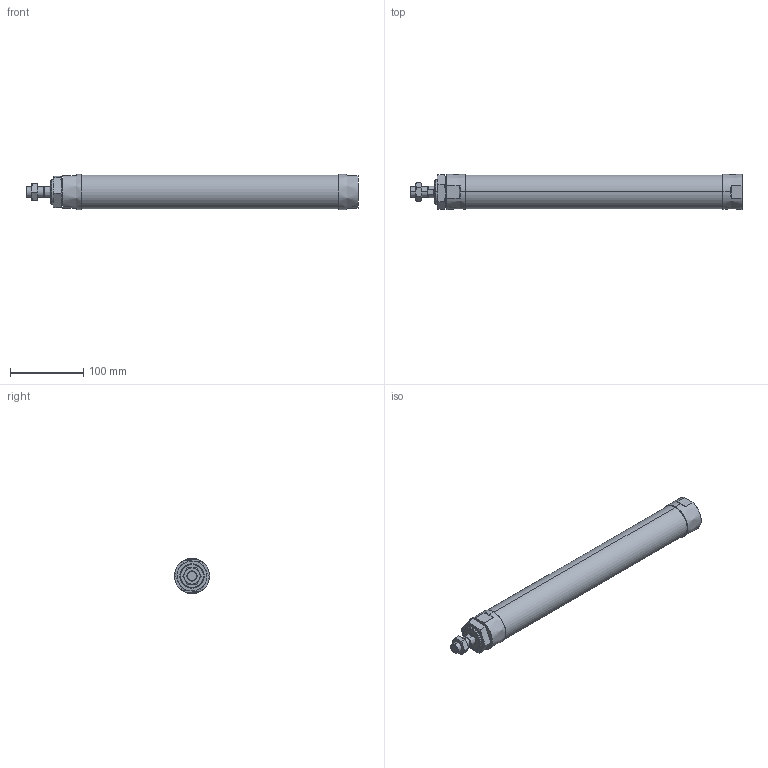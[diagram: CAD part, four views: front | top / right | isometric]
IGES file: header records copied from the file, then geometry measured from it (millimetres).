
Start section: SolidWorks IGES file using analytic representation for surfaces
Global section: file name: C:\Users\Toshiba\Desktop\JGND2-40-300-N.IGS; native system: SolidWorks 2014; preprocessor: SolidWorks 2014; author: Toshiba; date: 160804.111640; units: millimetre
Bounding box: 453 x 48 x 48 mm (x, y, z)
Surface area: 72193.4 mm2 (no closed solid volume)
Topology: 0 solids, 0 shells, 89 faces, 1702 edges, 1698 vertices
Faces by surface type: bspline 56, revolution 33
